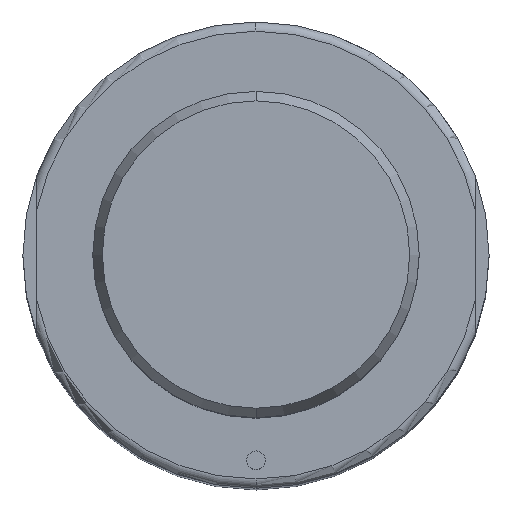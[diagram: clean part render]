
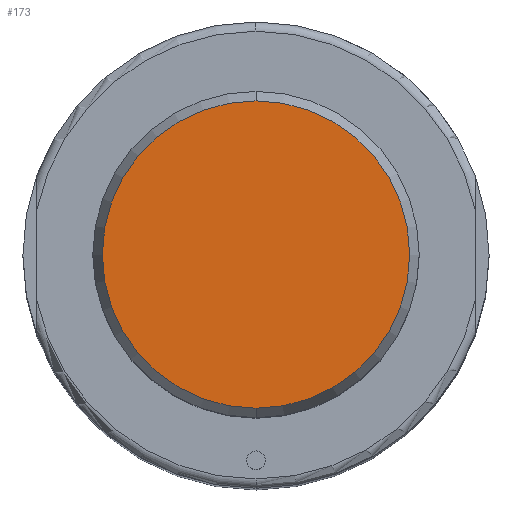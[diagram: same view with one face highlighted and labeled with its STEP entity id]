
A CAD part, top view. The second image highlights one B-rep face of the part: STEP entity #173.
In plain terms, the highlighted planar face has unit normal (0, 0, 1).
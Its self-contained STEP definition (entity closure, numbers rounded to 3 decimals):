
#124=PLANE('',#990);
#173=ADVANCED_FACE('',(#244),#124,.T.);
#244=FACE_OUTER_BOUND('',#297,.T.);
#297=EDGE_LOOP('',(#457,#458));
#364=CIRCLE('',#975,16.481);
#365=CIRCLE('',#977,16.481);
#457=ORIENTED_EDGE('',*,*,#758,.F.);
#458=ORIENTED_EDGE('',*,*,#759,.F.);
#677=VERTEX_POINT('',#1413);
#680=VERTEX_POINT('',#1418);
#758=EDGE_CURVE('',#680,#677,#364,.T.);
#759=EDGE_CURVE('',#677,#680,#365,.T.);
#975=AXIS2_PLACEMENT_3D('',#1419,#1109,#1110);
#977=AXIS2_PLACEMENT_3D('',#1421,#1113,#1114);
#990=AXIS2_PLACEMENT_3D('',#1444,#1143,#1144);
#1109=DIRECTION('',(0.,0.,-1.));
#1110=DIRECTION('',(-1.,0.,0.));
#1113=DIRECTION('',(0.,0.,-1.));
#1114=DIRECTION('',(1.,0.,0.));
#1143=DIRECTION('',(0.,0.,1.));
#1144=DIRECTION('',(0.,-1.,0.));
#1413=CARTESIAN_POINT('',(0.,-16.481,145.));
#1418=CARTESIAN_POINT('',(0.,16.481,145.));
#1419=CARTESIAN_POINT('',(0.,0.,145.));
#1421=CARTESIAN_POINT('',(0.,0.,145.));
#1444=CARTESIAN_POINT('',(0.,0.,145.));
